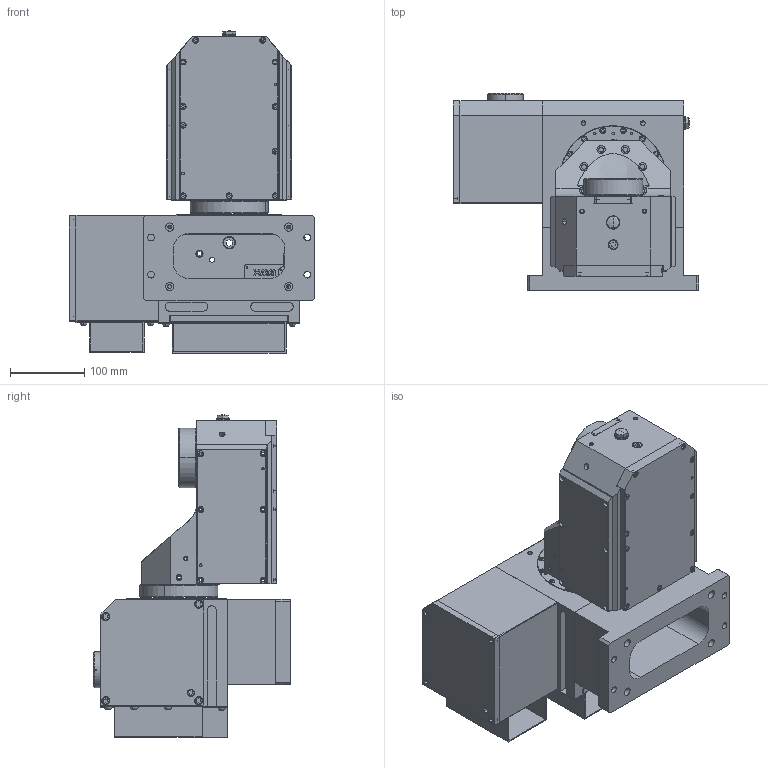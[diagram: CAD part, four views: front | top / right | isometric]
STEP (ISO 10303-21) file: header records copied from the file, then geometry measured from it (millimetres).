
FILE_DESCRIPTION (( 'STEP AP203' ), '1' );
FILE_NAME ('2505678 SATi83-01.STEP', '2020-12-05T05:57:15', ( '' ), ( '' ), 'SwSTEP 2.0', 'SolidWorks 2019', '' );
FILE_SCHEMA (( 'CONFIG_CONTROL_DESIGN' ));
Products named in the file (1): 2505678 SATi83-01
Bounding box: 330 x 265 x 433.3 mm (x, y, z)
Surface area: 753492.6 mm2 (no closed solid volume)
Topology: 0 solids, 151 shells, 1190 faces, 5026 edges, 3995 vertices
Faces by surface type: plane 645, cylinder 377, cone 135, torus 28, sphere 4, bspline 1
Entity records: 58134 total; most frequent: CARTESIAN_POINT 17587, DIRECTION 8018, ORIENTED_EDGE 7239, EDGE_CURVE 5022, VERTEX_POINT 3995, VECTOR 2920, LINE 2920, AXIS2_PLACEMENT_3D 2549
